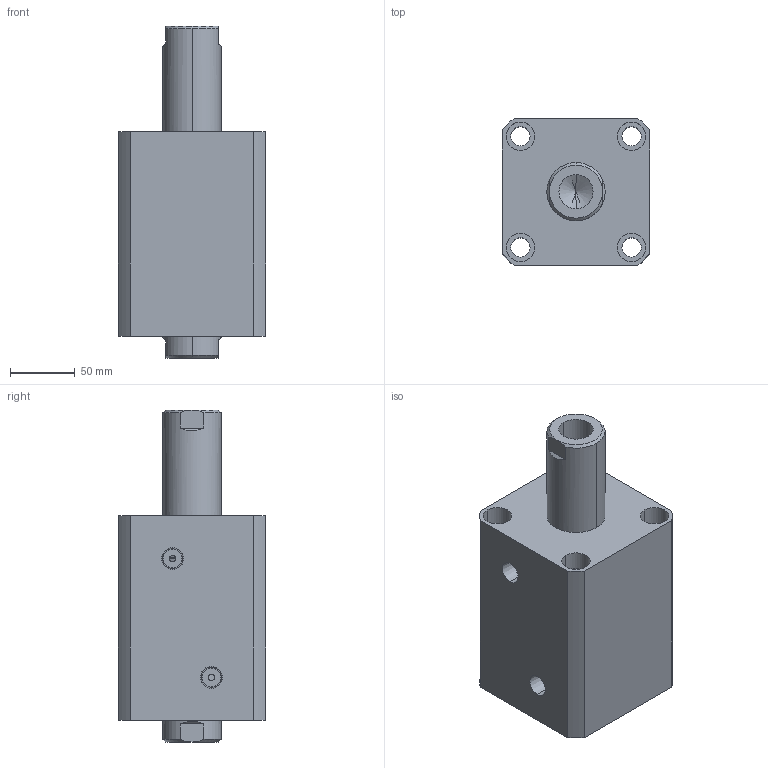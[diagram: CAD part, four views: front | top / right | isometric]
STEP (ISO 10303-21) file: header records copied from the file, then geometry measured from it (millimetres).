
FILE_DESCRIPTION (( 'STEP AP214' ), '1' );
FILE_NAME ('chtb-sw80x65n_asm.STEP', '2018-05-28T00:53:44', ( 'Windows' ), ( 'Microsoft' ), 'SwSTEP 2.0', 'SolidWorks 2015', '' );
FILE_SCHEMA (( 'AUTOMOTIVE_DESIGN' ));
Length unit declared in the file: millimetre
Products named in the file (4): CHTB-SD80X65NHSG; CHTB-SD80QG; chtb-sw80x65n_asm; CHTB-SW80X65NBT
Assembly tree (3 placements, depth 2):
  chtb-sw80x65n_asm
    CHTB-SD80QG
    CHTB-SD80X65NHSG
    CHTB-SW80X65NBT
Bounding box: 114 x 114 x 257 mm (x, y, z)
Volume: 1761518.5 mm3; surface area: 244974.1 mm2
Topology: 3 solids, 3 shells, 208 faces, 550 edges, 365 vertices
Faces by surface type: cylinder 109, plane 42, cone 25, torus 18, bspline 14
Entity records: 15645 total; most frequent: CARTESIAN_POINT 10539, ORIENTED_EDGE 1084, DIRECTION 970, EDGE_CURVE 542, AXIS2_PLACEMENT_3D 407, VERTEX_POINT 365, EDGE_LOOP 249, FACE_OUTER_BOUND 208
